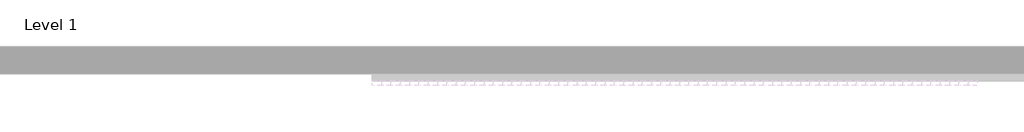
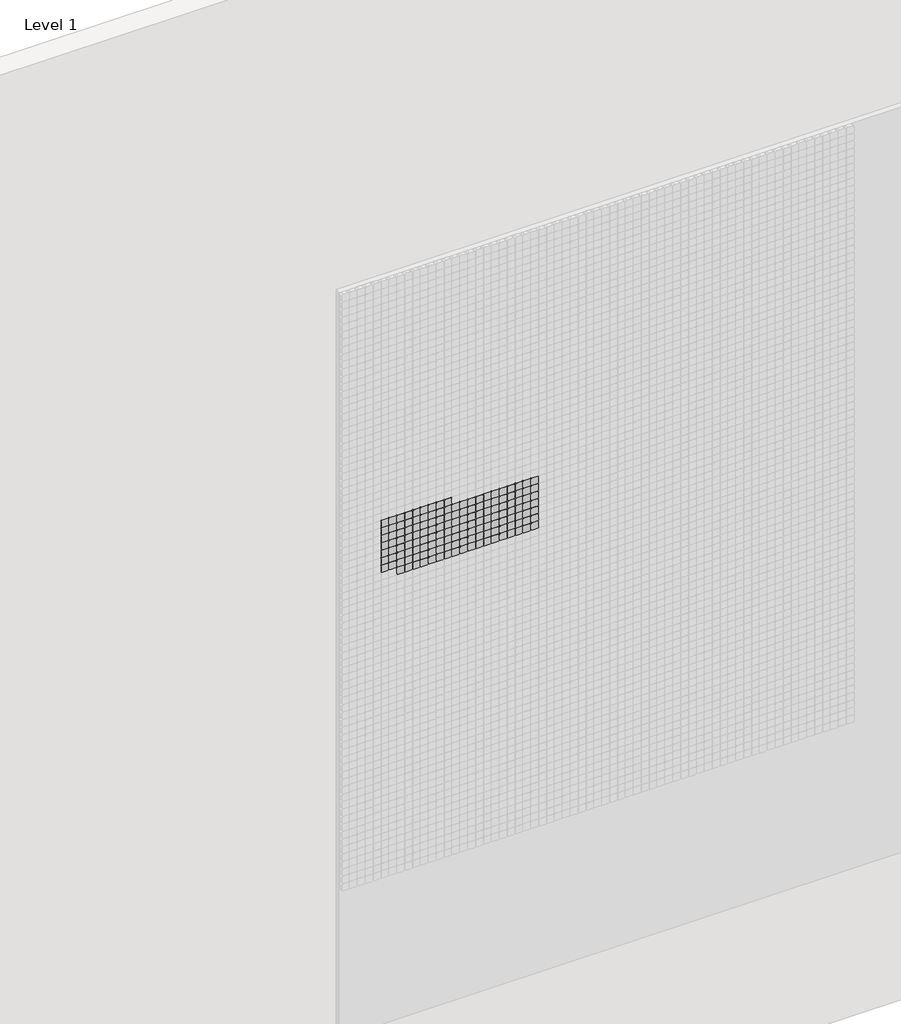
# One storey, part 12 of 71: 147 proxies.
"""IFC4 building model written with IfcOpenShell, lengths in millimetres."""

from ifc_helpers import new_model, si_unit, origin, place, context, project, spatial, transform, mapped, element, save
from components import generic_models_afde289c

model = new_model("IFC4")

# Units and contexts
model_context = context("Model", 3, world=origin())
ifc_project = project(units=[si_unit("LENGTHUNIT", "METRE", prefix="MILLI")], contexts=[model_context])

# Site, building, storey
site = spatial("IfcSite", under=ifc_project)
building = spatial("IfcBuilding", under=site)
storey = spatial("IfcBuildingStorey", under=building, Name="Level 1", Elevation=0.0)

# Proxies
placement = place(None, origin())
generic_models_shape = generic_models_afde289c(model_context)
element("IfcBuildingElementProxy", 1, Name="Pixel_M : Pixel_M", ObjectType="Pixel_M : Pixel_M", at=placement, inside=storey, context=model_context, shape_type="MappedRepresentation", body=[
    mapped(generic_models_shape, transform((5412.4280941, -75.0, 4366.3566215), x_axis=(1.0, 0.0, 0.0), y_axis=(0.0, 0.0, 1.0), z_axis=(0.0, -1.0, 0.0))),
])
element("IfcBuildingElementProxy", 2, Name="Pixel_M : Pixel_M", ObjectType="Pixel_M : Pixel_M", at=placement, inside=storey, context=model_context, shape_type="MappedRepresentation", body=[
    mapped(generic_models_shape, transform((5362.4280941, -75.0, 4366.3566215), x_axis=(1.0, 0.0, 0.0), y_axis=(0.0, 0.0, 1.0), z_axis=(0.0, -1.0, 0.0))),
])
element("IfcBuildingElementProxy", 3, Name="Pixel_M : Pixel_M", ObjectType="Pixel_M : Pixel_M", at=placement, inside=storey, context=model_context, shape_type="MappedRepresentation", body=[
    mapped(generic_models_shape, transform((5312.4280941, -75.0, 4366.3566215), x_axis=(1.0, 0.0, 0.0), y_axis=(0.0, 0.0, 1.0), z_axis=(0.0, -1.0, 0.0))),
])
element("IfcBuildingElementProxy", 4, Name="Pixel_M : Pixel_M", ObjectType="Pixel_M : Pixel_M", at=placement, inside=storey, context=model_context, shape_type="MappedRepresentation", body=[
    mapped(generic_models_shape, transform((5262.4280941, -75.0, 4366.3566215), x_axis=(1.0, 0.0, 0.0), y_axis=(0.0, 0.0, 1.0), z_axis=(0.0, -1.0, 0.0))),
])
element("IfcBuildingElementProxy", 5, Name="Pixel_M : Pixel_M", ObjectType="Pixel_M : Pixel_M", at=placement, inside=storey, context=model_context, shape_type="MappedRepresentation", body=[
    mapped(generic_models_shape, transform((5212.4280941, -75.0, 4366.3566215), x_axis=(1.0, 0.0, 0.0), y_axis=(0.0, 0.0, 1.0), z_axis=(0.0, -1.0, 0.0))),
])
element("IfcBuildingElementProxy", 6, Name="Pixel_M : Pixel_M", ObjectType="Pixel_M : Pixel_M", at=placement, inside=storey, context=model_context, shape_type="MappedRepresentation", body=[
    mapped(generic_models_shape, transform((5162.4280941, -75.0, 4366.3566215), x_axis=(1.0, 0.0, 0.0), y_axis=(0.0, 0.0, 1.0), z_axis=(0.0, -1.0, 0.0))),
])
element("IfcBuildingElementProxy", 7, Name="Pixel_M : Pixel_M", ObjectType="Pixel_M : Pixel_M", at=placement, inside=storey, context=model_context, shape_type="MappedRepresentation", body=[
    mapped(generic_models_shape, transform((5112.4280941, -75.0, 4366.3566215), x_axis=(1.0, 0.0, 0.0), y_axis=(0.0, 0.0, 1.0), z_axis=(0.0, -1.0, 0.0))),
])
element("IfcBuildingElementProxy", 8, Name="Pixel_M : Pixel_M", ObjectType="Pixel_M : Pixel_M", at=placement, inside=storey, context=model_context, shape_type="MappedRepresentation", body=[
    mapped(generic_models_shape, transform((5062.4280941, -75.0, 4366.3566215), x_axis=(1.0, 0.0, 0.0), y_axis=(0.0, 0.0, 1.0), z_axis=(0.0, -1.0, 0.0))),
])
element("IfcBuildingElementProxy", 9, Name="Pixel_M : Pixel_M", ObjectType="Pixel_M : Pixel_M", at=placement, inside=storey, context=model_context, shape_type="MappedRepresentation", body=[
    mapped(generic_models_shape, transform((5012.4280941, -75.0, 4366.3566215), x_axis=(1.0, 0.0, 0.0), y_axis=(0.0, 0.0, 1.0), z_axis=(0.0, -1.0, 0.0))),
])
element("IfcBuildingElementProxy", 10, Name="Pixel_M : Pixel_M", ObjectType="Pixel_M : Pixel_M", at=placement, inside=storey, context=model_context, shape_type="MappedRepresentation", body=[
    mapped(generic_models_shape, transform((5962.4280941, -75.0, 4316.3566215), x_axis=(1.0, 0.0, 0.0), y_axis=(0.0, 0.0, 1.0), z_axis=(0.0, -1.0, 0.0))),
])
element("IfcBuildingElementProxy", 11, Name="Pixel_M : Pixel_M", ObjectType="Pixel_M : Pixel_M", at=placement, inside=storey, context=model_context, shape_type="MappedRepresentation", body=[
    mapped(generic_models_shape, transform((5912.4280941, -75.0, 4316.3566215), x_axis=(1.0, 0.0, 0.0), y_axis=(0.0, 0.0, 1.0), z_axis=(0.0, -1.0, 0.0))),
])
element("IfcBuildingElementProxy", 12, Name="Pixel_M : Pixel_M", ObjectType="Pixel_M : Pixel_M", at=placement, inside=storey, context=model_context, shape_type="MappedRepresentation", body=[
    mapped(generic_models_shape, transform((5862.4280941, -75.0, 4316.3566215), x_axis=(1.0, 0.0, 0.0), y_axis=(0.0, 0.0, 1.0), z_axis=(0.0, -1.0, 0.0))),
])
element("IfcBuildingElementProxy", 13, Name="Pixel_M : Pixel_M", ObjectType="Pixel_M : Pixel_M", at=placement, inside=storey, context=model_context, shape_type="MappedRepresentation", body=[
    mapped(generic_models_shape, transform((5812.4280941, -75.0, 4316.3566215), x_axis=(1.0, 0.0, 0.0), y_axis=(0.0, 0.0, 1.0), z_axis=(0.0, -1.0, 0.0))),
])
element("IfcBuildingElementProxy", 14, Name="Pixel_M : Pixel_M", ObjectType="Pixel_M : Pixel_M", at=placement, inside=storey, context=model_context, shape_type="MappedRepresentation", body=[
    mapped(generic_models_shape, transform((5762.4280941, -75.0, 4316.3566215), x_axis=(1.0, 0.0, 0.0), y_axis=(0.0, 0.0, 1.0), z_axis=(0.0, -1.0, 0.0))),
])
element("IfcBuildingElementProxy", 15, Name="Pixel_M : Pixel_M", ObjectType="Pixel_M : Pixel_M", at=placement, inside=storey, context=model_context, shape_type="MappedRepresentation", body=[
    mapped(generic_models_shape, transform((5712.4280941, -75.0, 4316.3566215), x_axis=(1.0, 0.0, 0.0), y_axis=(0.0, 0.0, 1.0), z_axis=(0.0, -1.0, 0.0))),
])
element("IfcBuildingElementProxy", 16, Name="Pixel_M : Pixel_M", ObjectType="Pixel_M : Pixel_M", at=placement, inside=storey, context=model_context, shape_type="MappedRepresentation", body=[
    mapped(generic_models_shape, transform((5662.4280941, -75.0, 4316.3566215), x_axis=(1.0, 0.0, 0.0), y_axis=(0.0, 0.0, 1.0), z_axis=(0.0, -1.0, 0.0))),
])
element("IfcBuildingElementProxy", 17, Name="Pixel_M : Pixel_M", ObjectType="Pixel_M : Pixel_M", at=placement, inside=storey, context=model_context, shape_type="MappedRepresentation", body=[
    mapped(generic_models_shape, transform((5612.4280941, -75.0, 4316.3566215), x_axis=(1.0, 0.0, 0.0), y_axis=(0.0, 0.0, 1.0), z_axis=(0.0, -1.0, 0.0))),
])
element("IfcBuildingElementProxy", 18, Name="Pixel_M : Pixel_M", ObjectType="Pixel_M : Pixel_M", at=placement, inside=storey, context=model_context, shape_type="MappedRepresentation", body=[
    mapped(generic_models_shape, transform((5562.4280941, -75.0, 4316.3566215), x_axis=(1.0, 0.0, 0.0), y_axis=(0.0, 0.0, 1.0), z_axis=(0.0, -1.0, 0.0))),
])
element("IfcBuildingElementProxy", 19, Name="Pixel_M : Pixel_M", ObjectType="Pixel_M : Pixel_M", at=placement, inside=storey, context=model_context, shape_type="MappedRepresentation", body=[
    mapped(generic_models_shape, transform((5512.4280941, -75.0, 4316.3566215), x_axis=(1.0, 0.0, 0.0), y_axis=(0.0, 0.0, 1.0), z_axis=(0.0, -1.0, 0.0))),
])
element("IfcBuildingElementProxy", 20, Name="Pixel_M : Pixel_M", ObjectType="Pixel_M : Pixel_M", at=placement, inside=storey, context=model_context, shape_type="MappedRepresentation", body=[
    mapped(generic_models_shape, transform((5462.4280941, -75.0, 4316.3566215), x_axis=(1.0, 0.0, 0.0), y_axis=(0.0, 0.0, 1.0), z_axis=(0.0, -1.0, 0.0))),
])
element("IfcBuildingElementProxy", 21, Name="Pixel_M : Pixel_M", ObjectType="Pixel_M : Pixel_M", at=placement, inside=storey, context=model_context, shape_type="MappedRepresentation", body=[
    mapped(generic_models_shape, transform((5412.4280941, -75.0, 4316.3566215), x_axis=(1.0, 0.0, 0.0), y_axis=(0.0, 0.0, 1.0), z_axis=(0.0, -1.0, 0.0))),
])
element("IfcBuildingElementProxy", 22, Name="Pixel_M : Pixel_M", ObjectType="Pixel_M : Pixel_M", at=placement, inside=storey, context=model_context, shape_type="MappedRepresentation", body=[
    mapped(generic_models_shape, transform((5362.4280941, -75.0, 4316.3566215), x_axis=(1.0, 0.0, 0.0), y_axis=(0.0, 0.0, 1.0), z_axis=(0.0, -1.0, 0.0))),
])
element("IfcBuildingElementProxy", 23, Name="Pixel_M : Pixel_M", ObjectType="Pixel_M : Pixel_M", at=placement, inside=storey, context=model_context, shape_type="MappedRepresentation", body=[
    mapped(generic_models_shape, transform((5312.4280941, -75.0, 4316.3566215), x_axis=(1.0, 0.0, 0.0), y_axis=(0.0, 0.0, 1.0), z_axis=(0.0, -1.0, 0.0))),
])
element("IfcBuildingElementProxy", 24, Name="Pixel_M : Pixel_M", ObjectType="Pixel_M : Pixel_M", at=placement, inside=storey, context=model_context, shape_type="MappedRepresentation", body=[
    mapped(generic_models_shape, transform((5262.4280941, -75.0, 4316.3566215), x_axis=(1.0, 0.0, 0.0), y_axis=(0.0, 0.0, 1.0), z_axis=(0.0, -1.0, 0.0))),
])
element("IfcBuildingElementProxy", 25, Name="Pixel_M : Pixel_M", ObjectType="Pixel_M : Pixel_M", at=placement, inside=storey, context=model_context, shape_type="MappedRepresentation", body=[
    mapped(generic_models_shape, transform((5212.4280941, -75.0, 4316.3566215), x_axis=(1.0, 0.0, 0.0), y_axis=(0.0, 0.0, 1.0), z_axis=(0.0, -1.0, 0.0))),
])
element("IfcBuildingElementProxy", 26, Name="Pixel_M : Pixel_M", ObjectType="Pixel_M : Pixel_M", at=placement, inside=storey, context=model_context, shape_type="MappedRepresentation", body=[
    mapped(generic_models_shape, transform((5162.4280941, -75.0, 4316.3566215), x_axis=(1.0, 0.0, 0.0), y_axis=(0.0, 0.0, 1.0), z_axis=(0.0, -1.0, 0.0))),
])
element("IfcBuildingElementProxy", 27, Name="Pixel_M : Pixel_M", ObjectType="Pixel_M : Pixel_M", at=placement, inside=storey, context=model_context, shape_type="MappedRepresentation", body=[
    mapped(generic_models_shape, transform((5112.4280941, -75.0, 4316.3566215), x_axis=(1.0, 0.0, 0.0), y_axis=(0.0, 0.0, 1.0), z_axis=(0.0, -1.0, 0.0))),
])
element("IfcBuildingElementProxy", 28, Name="Pixel_M : Pixel_M", ObjectType="Pixel_M : Pixel_M", at=placement, inside=storey, context=model_context, shape_type="MappedRepresentation", body=[
    mapped(generic_models_shape, transform((5062.4280941, -75.0, 4316.3566215), x_axis=(1.0, 0.0, 0.0), y_axis=(0.0, 0.0, 1.0), z_axis=(0.0, -1.0, 0.0))),
])
element("IfcBuildingElementProxy", 29, Name="Pixel_M : Pixel_M", ObjectType="Pixel_M : Pixel_M", at=placement, inside=storey, context=model_context, shape_type="MappedRepresentation", body=[
    mapped(generic_models_shape, transform((5012.4280941, -75.0, 4316.3566215), x_axis=(1.0, 0.0, 0.0), y_axis=(0.0, 0.0, 1.0), z_axis=(0.0, -1.0, 0.0))),
])
element("IfcBuildingElementProxy", 30, Name="Pixel_M : Pixel_M", ObjectType="Pixel_M : Pixel_M", at=placement, inside=storey, context=model_context, shape_type="MappedRepresentation", body=[
    mapped(generic_models_shape, transform((5962.4280941, -75.0, 4266.3566215), x_axis=(1.0, 0.0, 0.0), y_axis=(0.0, 0.0, 1.0), z_axis=(0.0, -1.0, 0.0))),
])
element("IfcBuildingElementProxy", 31, Name="Pixel_M : Pixel_M", ObjectType="Pixel_M : Pixel_M", at=placement, inside=storey, context=model_context, shape_type="MappedRepresentation", body=[
    mapped(generic_models_shape, transform((5912.4280941, -75.0, 4266.3566215), x_axis=(1.0, 0.0, 0.0), y_axis=(0.0, 0.0, 1.0), z_axis=(0.0, -1.0, 0.0))),
])
element("IfcBuildingElementProxy", 32, Name="Pixel_M : Pixel_M", ObjectType="Pixel_M : Pixel_M", at=placement, inside=storey, context=model_context, shape_type="MappedRepresentation", body=[
    mapped(generic_models_shape, transform((5862.4280941, -75.0, 4266.3566215), x_axis=(1.0, 0.0, 0.0), y_axis=(0.0, 0.0, 1.0), z_axis=(0.0, -1.0, 0.0))),
])
element("IfcBuildingElementProxy", 33, Name="Pixel_M : Pixel_M", ObjectType="Pixel_M : Pixel_M", at=placement, inside=storey, context=model_context, shape_type="MappedRepresentation", body=[
    mapped(generic_models_shape, transform((5812.4280941, -75.0, 4266.3566215), x_axis=(1.0, 0.0, 0.0), y_axis=(0.0, 0.0, 1.0), z_axis=(0.0, -1.0, 0.0))),
])
element("IfcBuildingElementProxy", 34, Name="Pixel_M : Pixel_M", ObjectType="Pixel_M : Pixel_M", at=placement, inside=storey, context=model_context, shape_type="MappedRepresentation", body=[
    mapped(generic_models_shape, transform((5762.4280941, -75.0, 4266.3566215), x_axis=(1.0, 0.0, 0.0), y_axis=(0.0, 0.0, 1.0), z_axis=(0.0, -1.0, 0.0))),
])
element("IfcBuildingElementProxy", 35, Name="Pixel_M : Pixel_M", ObjectType="Pixel_M : Pixel_M", at=placement, inside=storey, context=model_context, shape_type="MappedRepresentation", body=[
    mapped(generic_models_shape, transform((5712.4280941, -75.0, 4266.3566215), x_axis=(1.0, 0.0, 0.0), y_axis=(0.0, 0.0, 1.0), z_axis=(0.0, -1.0, 0.0))),
])
element("IfcBuildingElementProxy", 36, Name="Pixel_M : Pixel_M", ObjectType="Pixel_M : Pixel_M", at=placement, inside=storey, context=model_context, shape_type="MappedRepresentation", body=[
    mapped(generic_models_shape, transform((5662.4280941, -75.0, 4266.3566215), x_axis=(1.0, 0.0, 0.0), y_axis=(0.0, 0.0, 1.0), z_axis=(0.0, -1.0, 0.0))),
])
element("IfcBuildingElementProxy", 37, Name="Pixel_M : Pixel_M", ObjectType="Pixel_M : Pixel_M", at=placement, inside=storey, context=model_context, shape_type="MappedRepresentation", body=[
    mapped(generic_models_shape, transform((5612.4280941, -75.0, 4266.3566215), x_axis=(1.0, 0.0, 0.0), y_axis=(0.0, 0.0, 1.0), z_axis=(0.0, -1.0, 0.0))),
])
element("IfcBuildingElementProxy", 38, Name="Pixel_M : Pixel_M", ObjectType="Pixel_M : Pixel_M", at=placement, inside=storey, context=model_context, shape_type="MappedRepresentation", body=[
    mapped(generic_models_shape, transform((5562.4280941, -75.0, 4266.3566215), x_axis=(1.0, 0.0, 0.0), y_axis=(0.0, 0.0, 1.0), z_axis=(0.0, -1.0, 0.0))),
])
element("IfcBuildingElementProxy", 39, Name="Pixel_M : Pixel_M", ObjectType="Pixel_M : Pixel_M", at=placement, inside=storey, context=model_context, shape_type="MappedRepresentation", body=[
    mapped(generic_models_shape, transform((5512.4280941, -75.0, 4266.3566215), x_axis=(1.0, 0.0, 0.0), y_axis=(0.0, 0.0, 1.0), z_axis=(0.0, -1.0, 0.0))),
])
element("IfcBuildingElementProxy", 40, Name="Pixel_M : Pixel_M", ObjectType="Pixel_M : Pixel_M", at=placement, inside=storey, context=model_context, shape_type="MappedRepresentation", body=[
    mapped(generic_models_shape, transform((5462.4280941, -75.0, 4266.3566215), x_axis=(1.0, 0.0, 0.0), y_axis=(0.0, 0.0, 1.0), z_axis=(0.0, -1.0, 0.0))),
])
element("IfcBuildingElementProxy", 41, Name="Pixel_M : Pixel_M", ObjectType="Pixel_M : Pixel_M", at=placement, inside=storey, context=model_context, shape_type="MappedRepresentation", body=[
    mapped(generic_models_shape, transform((5412.4280941, -75.0, 4266.3566215), x_axis=(1.0, 0.0, 0.0), y_axis=(0.0, 0.0, 1.0), z_axis=(0.0, -1.0, 0.0))),
])
element("IfcBuildingElementProxy", 42, Name="Pixel_M : Pixel_M", ObjectType="Pixel_M : Pixel_M", at=placement, inside=storey, context=model_context, shape_type="MappedRepresentation", body=[
    mapped(generic_models_shape, transform((5362.4280941, -75.0, 4266.3566215), x_axis=(1.0, 0.0, 0.0), y_axis=(0.0, 0.0, 1.0), z_axis=(0.0, -1.0, 0.0))),
])
element("IfcBuildingElementProxy", 43, Name="Pixel_M : Pixel_M", ObjectType="Pixel_M : Pixel_M", at=placement, inside=storey, context=model_context, shape_type="MappedRepresentation", body=[
    mapped(generic_models_shape, transform((5312.4280941, -75.0, 4266.3566215), x_axis=(1.0, 0.0, 0.0), y_axis=(0.0, 0.0, 1.0), z_axis=(0.0, -1.0, 0.0))),
])
element("IfcBuildingElementProxy", 44, Name="Pixel_M : Pixel_M", ObjectType="Pixel_M : Pixel_M", at=placement, inside=storey, context=model_context, shape_type="MappedRepresentation", body=[
    mapped(generic_models_shape, transform((5262.4280941, -75.0, 4266.3566215), x_axis=(1.0, 0.0, 0.0), y_axis=(0.0, 0.0, 1.0), z_axis=(0.0, -1.0, 0.0))),
])
element("IfcBuildingElementProxy", 45, Name="Pixel_M : Pixel_M", ObjectType="Pixel_M : Pixel_M", at=placement, inside=storey, context=model_context, shape_type="MappedRepresentation", body=[
    mapped(generic_models_shape, transform((5212.4280941, -75.0, 4266.3566215), x_axis=(1.0, 0.0, 0.0), y_axis=(0.0, 0.0, 1.0), z_axis=(0.0, -1.0, 0.0))),
])
element("IfcBuildingElementProxy", 46, Name="Pixel_M : Pixel_M", ObjectType="Pixel_M : Pixel_M", at=placement, inside=storey, context=model_context, shape_type="MappedRepresentation", body=[
    mapped(generic_models_shape, transform((5162.4280941, -75.0, 4266.3566215), x_axis=(1.0, 0.0, 0.0), y_axis=(0.0, 0.0, 1.0), z_axis=(0.0, -1.0, 0.0))),
])
element("IfcBuildingElementProxy", 47, Name="Pixel_M : Pixel_M", ObjectType="Pixel_M : Pixel_M", at=placement, inside=storey, context=model_context, shape_type="MappedRepresentation", body=[
    mapped(generic_models_shape, transform((5112.4280941, -75.0, 4266.3566215), x_axis=(1.0, 0.0, 0.0), y_axis=(0.0, 0.0, 1.0), z_axis=(0.0, -1.0, 0.0))),
])
element("IfcBuildingElementProxy", 48, Name="Pixel_M : Pixel_M", ObjectType="Pixel_M : Pixel_M", at=placement, inside=storey, context=model_context, shape_type="MappedRepresentation", body=[
    mapped(generic_models_shape, transform((5062.4280941, -75.0, 4266.3566215), x_axis=(1.0, 0.0, 0.0), y_axis=(0.0, 0.0, 1.0), z_axis=(0.0, -1.0, 0.0))),
])
element("IfcBuildingElementProxy", 49, Name="Pixel_M : Pixel_M", ObjectType="Pixel_M : Pixel_M", at=placement, inside=storey, context=model_context, shape_type="MappedRepresentation", body=[
    mapped(generic_models_shape, transform((5012.4280941, -75.0, 4266.3566215), x_axis=(1.0, 0.0, 0.0), y_axis=(0.0, 0.0, 1.0), z_axis=(0.0, -1.0, 0.0))),
])
element("IfcBuildingElementProxy", 50, Name="Pixel_M : Pixel_M", ObjectType="Pixel_M : Pixel_M", at=placement, inside=storey, context=model_context, shape_type="MappedRepresentation", body=[
    mapped(generic_models_shape, transform((5962.4280941, -75.0, 4216.3566215), x_axis=(1.0, 0.0, 0.0), y_axis=(0.0, 0.0, 1.0), z_axis=(0.0, -1.0, 0.0))),
])
element("IfcBuildingElementProxy", 51, Name="Pixel_M : Pixel_M", ObjectType="Pixel_M : Pixel_M", at=placement, inside=storey, context=model_context, shape_type="MappedRepresentation", body=[
    mapped(generic_models_shape, transform((5912.4280941, -75.0, 4216.3566215), x_axis=(1.0, 0.0, 0.0), y_axis=(0.0, 0.0, 1.0), z_axis=(0.0, -1.0, 0.0))),
])
element("IfcBuildingElementProxy", 52, Name="Pixel_M : Pixel_M", ObjectType="Pixel_M : Pixel_M", at=placement, inside=storey, context=model_context, shape_type="MappedRepresentation", body=[
    mapped(generic_models_shape, transform((5862.4280941, -75.0, 4216.3566215), x_axis=(1.0, 0.0, 0.0), y_axis=(0.0, 0.0, 1.0), z_axis=(0.0, -1.0, 0.0))),
])
element("IfcBuildingElementProxy", 53, Name="Pixel_M : Pixel_M", ObjectType="Pixel_M : Pixel_M", at=placement, inside=storey, context=model_context, shape_type="MappedRepresentation", body=[
    mapped(generic_models_shape, transform((5812.4280941, -75.0, 4216.3566215), x_axis=(1.0, 0.0, 0.0), y_axis=(0.0, 0.0, 1.0), z_axis=(0.0, -1.0, 0.0))),
])
element("IfcBuildingElementProxy", 54, Name="Pixel_M : Pixel_M", ObjectType="Pixel_M : Pixel_M", at=placement, inside=storey, context=model_context, shape_type="MappedRepresentation", body=[
    mapped(generic_models_shape, transform((5762.4280941, -75.0, 4216.3566215), x_axis=(1.0, 0.0, 0.0), y_axis=(0.0, 0.0, 1.0), z_axis=(0.0, -1.0, 0.0))),
])
element("IfcBuildingElementProxy", 55, Name="Pixel_M : Pixel_M", ObjectType="Pixel_M : Pixel_M", at=placement, inside=storey, context=model_context, shape_type="MappedRepresentation", body=[
    mapped(generic_models_shape, transform((5712.4280941, -75.0, 4216.3566215), x_axis=(1.0, 0.0, 0.0), y_axis=(0.0, 0.0, 1.0), z_axis=(0.0, -1.0, 0.0))),
])
element("IfcBuildingElementProxy", 56, Name="Pixel_M : Pixel_M", ObjectType="Pixel_M : Pixel_M", at=placement, inside=storey, context=model_context, shape_type="MappedRepresentation", body=[
    mapped(generic_models_shape, transform((5662.4280941, -75.0, 4216.3566215), x_axis=(1.0, 0.0, 0.0), y_axis=(0.0, 0.0, 1.0), z_axis=(0.0, -1.0, 0.0))),
])
element("IfcBuildingElementProxy", 57, Name="Pixel_M : Pixel_M", ObjectType="Pixel_M : Pixel_M", at=placement, inside=storey, context=model_context, shape_type="MappedRepresentation", body=[
    mapped(generic_models_shape, transform((5612.4280941, -75.0, 4216.3566215), x_axis=(1.0, 0.0, 0.0), y_axis=(0.0, 0.0, 1.0), z_axis=(0.0, -1.0, 0.0))),
])
element("IfcBuildingElementProxy", 58, Name="Pixel_M : Pixel_M", ObjectType="Pixel_M : Pixel_M", at=placement, inside=storey, context=model_context, shape_type="MappedRepresentation", body=[
    mapped(generic_models_shape, transform((5562.4280941, -75.0, 4216.3566215), x_axis=(1.0, 0.0, 0.0), y_axis=(0.0, 0.0, 1.0), z_axis=(0.0, -1.0, 0.0))),
])
element("IfcBuildingElementProxy", 59, Name="Pixel_M : Pixel_M", ObjectType="Pixel_M : Pixel_M", at=placement, inside=storey, context=model_context, shape_type="MappedRepresentation", body=[
    mapped(generic_models_shape, transform((5512.4280941, -75.0, 4216.3566215), x_axis=(1.0, 0.0, 0.0), y_axis=(0.0, 0.0, 1.0), z_axis=(0.0, -1.0, 0.0))),
])
element("IfcBuildingElementProxy", 60, Name="Pixel_M : Pixel_M", ObjectType="Pixel_M : Pixel_M", at=placement, inside=storey, context=model_context, shape_type="MappedRepresentation", body=[
    mapped(generic_models_shape, transform((5462.4280941, -75.0, 4216.3566215), x_axis=(1.0, 0.0, 0.0), y_axis=(0.0, 0.0, 1.0), z_axis=(0.0, -1.0, 0.0))),
])
element("IfcBuildingElementProxy", 61, Name="Pixel_M : Pixel_M", ObjectType="Pixel_M : Pixel_M", at=placement, inside=storey, context=model_context, shape_type="MappedRepresentation", body=[
    mapped(generic_models_shape, transform((5412.4280941, -75.0, 4216.3566215), x_axis=(1.0, 0.0, 0.0), y_axis=(0.0, 0.0, 1.0), z_axis=(0.0, -1.0, 0.0))),
])
element("IfcBuildingElementProxy", 62, Name="Pixel_M : Pixel_M", ObjectType="Pixel_M : Pixel_M", at=placement, inside=storey, context=model_context, shape_type="MappedRepresentation", body=[
    mapped(generic_models_shape, transform((5362.4280941, -75.0, 4216.3566215), x_axis=(1.0, 0.0, 0.0), y_axis=(0.0, 0.0, 1.0), z_axis=(0.0, -1.0, 0.0))),
])
element("IfcBuildingElementProxy", 63, Name="Pixel_M : Pixel_M", ObjectType="Pixel_M : Pixel_M", at=placement, inside=storey, context=model_context, shape_type="MappedRepresentation", body=[
    mapped(generic_models_shape, transform((5312.4280941, -75.0, 4216.3566215), x_axis=(1.0, 0.0, 0.0), y_axis=(0.0, 0.0, 1.0), z_axis=(0.0, -1.0, 0.0))),
])
element("IfcBuildingElementProxy", 64, Name="Pixel_M : Pixel_M", ObjectType="Pixel_M : Pixel_M", at=placement, inside=storey, context=model_context, shape_type="MappedRepresentation", body=[
    mapped(generic_models_shape, transform((5262.4280941, -75.0, 4216.3566215), x_axis=(1.0, 0.0, 0.0), y_axis=(0.0, 0.0, 1.0), z_axis=(0.0, -1.0, 0.0))),
])
element("IfcBuildingElementProxy", 65, Name="Pixel_M : Pixel_M", ObjectType="Pixel_M : Pixel_M", at=placement, inside=storey, context=model_context, shape_type="MappedRepresentation", body=[
    mapped(generic_models_shape, transform((5212.4280941, -75.0, 4216.3566215), x_axis=(1.0, 0.0, 0.0), y_axis=(0.0, 0.0, 1.0), z_axis=(0.0, -1.0, 0.0))),
])
element("IfcBuildingElementProxy", 66, Name="Pixel_M : Pixel_M", ObjectType="Pixel_M : Pixel_M", at=placement, inside=storey, context=model_context, shape_type="MappedRepresentation", body=[
    mapped(generic_models_shape, transform((5162.4280941, -75.0, 4216.3566215), x_axis=(1.0, 0.0, 0.0), y_axis=(0.0, 0.0, 1.0), z_axis=(0.0, -1.0, 0.0))),
])
element("IfcBuildingElementProxy", 67, Name="Pixel_M : Pixel_M", ObjectType="Pixel_M : Pixel_M", at=placement, inside=storey, context=model_context, shape_type="MappedRepresentation", body=[
    mapped(generic_models_shape, transform((5112.4280941, -75.0, 4216.3566215), x_axis=(1.0, 0.0, 0.0), y_axis=(0.0, 0.0, 1.0), z_axis=(0.0, -1.0, 0.0))),
])
element("IfcBuildingElementProxy", 68, Name="Pixel_M : Pixel_M", ObjectType="Pixel_M : Pixel_M", at=placement, inside=storey, context=model_context, shape_type="MappedRepresentation", body=[
    mapped(generic_models_shape, transform((5062.4280941, -75.0, 4216.3566215), x_axis=(1.0, 0.0, 0.0), y_axis=(0.0, 0.0, 1.0), z_axis=(0.0, -1.0, 0.0))),
])
element("IfcBuildingElementProxy", 69, Name="Pixel_M : Pixel_M", ObjectType="Pixel_M : Pixel_M", at=placement, inside=storey, context=model_context, shape_type="MappedRepresentation", body=[
    mapped(generic_models_shape, transform((5012.4280941, -75.0, 4216.3566215), x_axis=(1.0, 0.0, 0.0), y_axis=(0.0, 0.0, 1.0), z_axis=(0.0, -1.0, 0.0))),
])
element("IfcBuildingElementProxy", 70, Name="Pixel_M : Pixel_M", ObjectType="Pixel_M : Pixel_M", at=placement, inside=storey, context=model_context, shape_type="MappedRepresentation", body=[
    mapped(generic_models_shape, transform((5962.4280941, -75.0, 4166.3566215), x_axis=(1.0, 0.0, 0.0), y_axis=(0.0, 0.0, 1.0), z_axis=(0.0, -1.0, 0.0))),
])
element("IfcBuildingElementProxy", 71, Name="Pixel_M : Pixel_M", ObjectType="Pixel_M : Pixel_M", at=placement, inside=storey, context=model_context, shape_type="MappedRepresentation", body=[
    mapped(generic_models_shape, transform((5912.4280941, -75.0, 4166.3566215), x_axis=(1.0, 0.0, 0.0), y_axis=(0.0, 0.0, 1.0), z_axis=(0.0, -1.0, 0.0))),
])
element("IfcBuildingElementProxy", 72, Name="Pixel_M : Pixel_M", ObjectType="Pixel_M : Pixel_M", at=placement, inside=storey, context=model_context, shape_type="MappedRepresentation", body=[
    mapped(generic_models_shape, transform((5862.4280941, -75.0, 4166.3566215), x_axis=(1.0, 0.0, 0.0), y_axis=(0.0, 0.0, 1.0), z_axis=(0.0, -1.0, 0.0))),
])
element("IfcBuildingElementProxy", 73, Name="Pixel_M : Pixel_M", ObjectType="Pixel_M : Pixel_M", at=placement, inside=storey, context=model_context, shape_type="MappedRepresentation", body=[
    mapped(generic_models_shape, transform((5812.4280941, -75.0, 4166.3566215), x_axis=(1.0, 0.0, 0.0), y_axis=(0.0, 0.0, 1.0), z_axis=(0.0, -1.0, 0.0))),
])
element("IfcBuildingElementProxy", 74, Name="Pixel_M : Pixel_M", ObjectType="Pixel_M : Pixel_M", at=placement, inside=storey, context=model_context, shape_type="MappedRepresentation", body=[
    mapped(generic_models_shape, transform((5762.4280941, -75.0, 4166.3566215), x_axis=(1.0, 0.0, 0.0), y_axis=(0.0, 0.0, 1.0), z_axis=(0.0, -1.0, 0.0))),
])
element("IfcBuildingElementProxy", 75, Name="Pixel_M : Pixel_M", ObjectType="Pixel_M : Pixel_M", at=placement, inside=storey, context=model_context, shape_type="MappedRepresentation", body=[
    mapped(generic_models_shape, transform((5712.4280941, -75.0, 4166.3566215), x_axis=(1.0, 0.0, 0.0), y_axis=(0.0, 0.0, 1.0), z_axis=(0.0, -1.0, 0.0))),
])
element("IfcBuildingElementProxy", 76, Name="Pixel_M : Pixel_M", ObjectType="Pixel_M : Pixel_M", at=placement, inside=storey, context=model_context, shape_type="MappedRepresentation", body=[
    mapped(generic_models_shape, transform((5662.4280941, -75.0, 4166.3566215), x_axis=(1.0, 0.0, 0.0), y_axis=(0.0, 0.0, 1.0), z_axis=(0.0, -1.0, 0.0))),
])
element("IfcBuildingElementProxy", 77, Name="Pixel_M : Pixel_M", ObjectType="Pixel_M : Pixel_M", at=placement, inside=storey, context=model_context, shape_type="MappedRepresentation", body=[
    mapped(generic_models_shape, transform((5612.4280941, -75.0, 4166.3566215), x_axis=(1.0, 0.0, 0.0), y_axis=(0.0, 0.0, 1.0), z_axis=(0.0, -1.0, 0.0))),
])
element("IfcBuildingElementProxy", 78, Name="Pixel_M : Pixel_M", ObjectType="Pixel_M : Pixel_M", at=placement, inside=storey, context=model_context, shape_type="MappedRepresentation", body=[
    mapped(generic_models_shape, transform((5562.4280941, -75.0, 4166.3566215), x_axis=(1.0, 0.0, 0.0), y_axis=(0.0, 0.0, 1.0), z_axis=(0.0, -1.0, 0.0))),
])
element("IfcBuildingElementProxy", 79, Name="Pixel_M : Pixel_M", ObjectType="Pixel_M : Pixel_M", at=placement, inside=storey, context=model_context, shape_type="MappedRepresentation", body=[
    mapped(generic_models_shape, transform((5512.4280941, -75.0, 4166.3566215), x_axis=(1.0, 0.0, 0.0), y_axis=(0.0, 0.0, 1.0), z_axis=(0.0, -1.0, 0.0))),
])
element("IfcBuildingElementProxy", 80, Name="Pixel_M : Pixel_M", ObjectType="Pixel_M : Pixel_M", at=placement, inside=storey, context=model_context, shape_type="MappedRepresentation", body=[
    mapped(generic_models_shape, transform((5462.4280941, -75.0, 4166.3566215), x_axis=(1.0, 0.0, 0.0), y_axis=(0.0, 0.0, 1.0), z_axis=(0.0, -1.0, 0.0))),
])
element("IfcBuildingElementProxy", 81, Name="Pixel_M : Pixel_M", ObjectType="Pixel_M : Pixel_M", at=placement, inside=storey, context=model_context, shape_type="MappedRepresentation", body=[
    mapped(generic_models_shape, transform((5412.4280941, -75.0, 4166.3566215), x_axis=(1.0, 0.0, 0.0), y_axis=(0.0, 0.0, 1.0), z_axis=(0.0, -1.0, 0.0))),
])
element("IfcBuildingElementProxy", 82, Name="Pixel_M : Pixel_M", ObjectType="Pixel_M : Pixel_M", at=placement, inside=storey, context=model_context, shape_type="MappedRepresentation", body=[
    mapped(generic_models_shape, transform((5362.4280941, -75.0, 4166.3566215), x_axis=(1.0, 0.0, 0.0), y_axis=(0.0, 0.0, 1.0), z_axis=(0.0, -1.0, 0.0))),
])
element("IfcBuildingElementProxy", 83, Name="Pixel_M : Pixel_M", ObjectType="Pixel_M : Pixel_M", at=placement, inside=storey, context=model_context, shape_type="MappedRepresentation", body=[
    mapped(generic_models_shape, transform((5312.4280941, -75.0, 4166.3566215), x_axis=(1.0, 0.0, 0.0), y_axis=(0.0, 0.0, 1.0), z_axis=(0.0, -1.0, 0.0))),
])
element("IfcBuildingElementProxy", 84, Name="Pixel_M : Pixel_M", ObjectType="Pixel_M : Pixel_M", at=placement, inside=storey, context=model_context, shape_type="MappedRepresentation", body=[
    mapped(generic_models_shape, transform((5262.4280941, -75.0, 4166.3566215), x_axis=(1.0, 0.0, 0.0), y_axis=(0.0, 0.0, 1.0), z_axis=(0.0, -1.0, 0.0))),
])
element("IfcBuildingElementProxy", 85, Name="Pixel_M : Pixel_M", ObjectType="Pixel_M : Pixel_M", at=placement, inside=storey, context=model_context, shape_type="MappedRepresentation", body=[
    mapped(generic_models_shape, transform((5212.4280941, -75.0, 4166.3566215), x_axis=(1.0, 0.0, 0.0), y_axis=(0.0, 0.0, 1.0), z_axis=(0.0, -1.0, 0.0))),
])
element("IfcBuildingElementProxy", 86, Name="Pixel_M : Pixel_M", ObjectType="Pixel_M : Pixel_M", at=placement, inside=storey, context=model_context, shape_type="MappedRepresentation", body=[
    mapped(generic_models_shape, transform((5162.4280941, -75.0, 4166.3566215), x_axis=(1.0, 0.0, 0.0), y_axis=(0.0, 0.0, 1.0), z_axis=(0.0, -1.0, 0.0))),
])
element("IfcBuildingElementProxy", 87, Name="Pixel_M : Pixel_M", ObjectType="Pixel_M : Pixel_M", at=placement, inside=storey, context=model_context, shape_type="MappedRepresentation", body=[
    mapped(generic_models_shape, transform((5112.4280941, -75.0, 4166.3566215), x_axis=(1.0, 0.0, 0.0), y_axis=(0.0, 0.0, 1.0), z_axis=(0.0, -1.0, 0.0))),
])
element("IfcBuildingElementProxy", 88, Name="Pixel_M : Pixel_M", ObjectType="Pixel_M : Pixel_M", at=placement, inside=storey, context=model_context, shape_type="MappedRepresentation", body=[
    mapped(generic_models_shape, transform((5062.4280941, -75.0, 4166.3566215), x_axis=(1.0, 0.0, 0.0), y_axis=(0.0, 0.0, 1.0), z_axis=(0.0, -1.0, 0.0))),
])
element("IfcBuildingElementProxy", 89, Name="Pixel_M : Pixel_M", ObjectType="Pixel_M : Pixel_M", at=placement, inside=storey, context=model_context, shape_type="MappedRepresentation", body=[
    mapped(generic_models_shape, transform((5012.4280941, -75.0, 4166.3566215), x_axis=(1.0, 0.0, 0.0), y_axis=(0.0, 0.0, 1.0), z_axis=(0.0, -1.0, 0.0))),
])
element("IfcBuildingElementProxy", 90, Name="Pixel_M : Pixel_M", ObjectType="Pixel_M : Pixel_M", at=placement, inside=storey, context=model_context, shape_type="MappedRepresentation", body=[
    mapped(generic_models_shape, transform((5962.4280941, -75.0, 4116.3566215), x_axis=(1.0, 0.0, 0.0), y_axis=(0.0, 0.0, 1.0), z_axis=(0.0, -1.0, 0.0))),
])
element("IfcBuildingElementProxy", 91, Name="Pixel_M : Pixel_M", ObjectType="Pixel_M : Pixel_M", at=placement, inside=storey, context=model_context, shape_type="MappedRepresentation", body=[
    mapped(generic_models_shape, transform((5912.4280941, -75.0, 4116.3566215), x_axis=(1.0, 0.0, 0.0), y_axis=(0.0, 0.0, 1.0), z_axis=(0.0, -1.0, 0.0))),
])
element("IfcBuildingElementProxy", 92, Name="Pixel_M : Pixel_M", ObjectType="Pixel_M : Pixel_M", at=placement, inside=storey, context=model_context, shape_type="MappedRepresentation", body=[
    mapped(generic_models_shape, transform((5862.4280941, -75.0, 4116.3566215), x_axis=(1.0, 0.0, 0.0), y_axis=(0.0, 0.0, 1.0), z_axis=(0.0, -1.0, 0.0))),
])
element("IfcBuildingElementProxy", 93, Name="Pixel_M : Pixel_M", ObjectType="Pixel_M : Pixel_M", at=placement, inside=storey, context=model_context, shape_type="MappedRepresentation", body=[
    mapped(generic_models_shape, transform((5812.4280941, -75.0, 4116.3566215), x_axis=(1.0, 0.0, 0.0), y_axis=(0.0, 0.0, 1.0), z_axis=(0.0, -1.0, 0.0))),
])
element("IfcBuildingElementProxy", 94, Name="Pixel_M : Pixel_M", ObjectType="Pixel_M : Pixel_M", at=placement, inside=storey, context=model_context, shape_type="MappedRepresentation", body=[
    mapped(generic_models_shape, transform((5762.4280941, -75.0, 4116.3566215), x_axis=(1.0, 0.0, 0.0), y_axis=(0.0, 0.0, 1.0), z_axis=(0.0, -1.0, 0.0))),
])
element("IfcBuildingElementProxy", 95, Name="Pixel_M : Pixel_M", ObjectType="Pixel_M : Pixel_M", at=placement, inside=storey, context=model_context, shape_type="MappedRepresentation", body=[
    mapped(generic_models_shape, transform((5712.4280941, -75.0, 4116.3566215), x_axis=(1.0, 0.0, 0.0), y_axis=(0.0, 0.0, 1.0), z_axis=(0.0, -1.0, 0.0))),
])
element("IfcBuildingElementProxy", 96, Name="Pixel_M : Pixel_M", ObjectType="Pixel_M : Pixel_M", at=placement, inside=storey, context=model_context, shape_type="MappedRepresentation", body=[
    mapped(generic_models_shape, transform((5662.4280941, -75.0, 4116.3566215), x_axis=(1.0, 0.0, 0.0), y_axis=(0.0, 0.0, 1.0), z_axis=(0.0, -1.0, 0.0))),
])
element("IfcBuildingElementProxy", 97, Name="Pixel_M : Pixel_M", ObjectType="Pixel_M : Pixel_M", at=placement, inside=storey, context=model_context, shape_type="MappedRepresentation", body=[
    mapped(generic_models_shape, transform((5612.4280941, -75.0, 4116.3566215), x_axis=(1.0, 0.0, 0.0), y_axis=(0.0, 0.0, 1.0), z_axis=(0.0, -1.0, 0.0))),
])
element("IfcBuildingElementProxy", 98, Name="Pixel_M : Pixel_M", ObjectType="Pixel_M : Pixel_M", at=placement, inside=storey, context=model_context, shape_type="MappedRepresentation", body=[
    mapped(generic_models_shape, transform((5562.4280941, -75.0, 4116.3566215), x_axis=(1.0, 0.0, 0.0), y_axis=(0.0, 0.0, 1.0), z_axis=(0.0, -1.0, 0.0))),
])
element("IfcBuildingElementProxy", 99, Name="Pixel_M : Pixel_M", ObjectType="Pixel_M : Pixel_M", at=placement, inside=storey, context=model_context, shape_type="MappedRepresentation", body=[
    mapped(generic_models_shape, transform((5512.4280941, -75.0, 4116.3566215), x_axis=(1.0, 0.0, 0.0), y_axis=(0.0, 0.0, 1.0), z_axis=(0.0, -1.0, 0.0))),
])
element("IfcBuildingElementProxy", 100, Name="Pixel_M : Pixel_M", ObjectType="Pixel_M : Pixel_M", at=placement, inside=storey, context=model_context, shape_type="MappedRepresentation", body=[
    mapped(generic_models_shape, transform((5462.4280941, -75.0, 4116.3566215), x_axis=(1.0, 0.0, 0.0), y_axis=(0.0, 0.0, 1.0), z_axis=(0.0, -1.0, 0.0))),
])
element("IfcBuildingElementProxy", 101, Name="Pixel_M : Pixel_M", ObjectType="Pixel_M : Pixel_M", at=placement, inside=storey, context=model_context, shape_type="MappedRepresentation", body=[
    mapped(generic_models_shape, transform((5412.4280941, -75.0, 4116.3566215), x_axis=(1.0, 0.0, 0.0), y_axis=(0.0, 0.0, 1.0), z_axis=(0.0, -1.0, 0.0))),
])
element("IfcBuildingElementProxy", 102, Name="Pixel_M : Pixel_M", ObjectType="Pixel_M : Pixel_M", at=placement, inside=storey, context=model_context, shape_type="MappedRepresentation", body=[
    mapped(generic_models_shape, transform((5362.4280941, -75.0, 4116.3566215), x_axis=(1.0, 0.0, 0.0), y_axis=(0.0, 0.0, 1.0), z_axis=(0.0, -1.0, 0.0))),
])
element("IfcBuildingElementProxy", 103, Name="Pixel_M : Pixel_M", ObjectType="Pixel_M : Pixel_M", at=placement, inside=storey, context=model_context, shape_type="MappedRepresentation", body=[
    mapped(generic_models_shape, transform((5312.4280941, -75.0, 4116.3566215), x_axis=(1.0, 0.0, 0.0), y_axis=(0.0, 0.0, 1.0), z_axis=(0.0, -1.0, 0.0))),
])
element("IfcBuildingElementProxy", 104, Name="Pixel_M : Pixel_M", ObjectType="Pixel_M : Pixel_M", at=placement, inside=storey, context=model_context, shape_type="MappedRepresentation", body=[
    mapped(generic_models_shape, transform((5262.4280941, -75.0, 4116.3566215), x_axis=(1.0, 0.0, 0.0), y_axis=(0.0, 0.0, 1.0), z_axis=(0.0, -1.0, 0.0))),
])
element("IfcBuildingElementProxy", 105, Name="Pixel_M : Pixel_M", ObjectType="Pixel_M : Pixel_M", at=placement, inside=storey, context=model_context, shape_type="MappedRepresentation", body=[
    mapped(generic_models_shape, transform((5212.4280941, -75.0, 4116.3566215), x_axis=(1.0, 0.0, 0.0), y_axis=(0.0, 0.0, 1.0), z_axis=(0.0, -1.0, 0.0))),
])
element("IfcBuildingElementProxy", 106, Name="Pixel_M : Pixel_M", ObjectType="Pixel_M : Pixel_M", at=placement, inside=storey, context=model_context, shape_type="MappedRepresentation", body=[
    mapped(generic_models_shape, transform((5162.4280941, -75.0, 4116.3566215), x_axis=(1.0, 0.0, 0.0), y_axis=(0.0, 0.0, 1.0), z_axis=(0.0, -1.0, 0.0))),
])
element("IfcBuildingElementProxy", 107, Name="Pixel_M : Pixel_M", ObjectType="Pixel_M : Pixel_M", at=placement, inside=storey, context=model_context, shape_type="MappedRepresentation", body=[
    mapped(generic_models_shape, transform((5112.4280941, -75.0, 4116.3566215), x_axis=(1.0, 0.0, 0.0), y_axis=(0.0, 0.0, 1.0), z_axis=(0.0, -1.0, 0.0))),
])
element("IfcBuildingElementProxy", 108, Name="Pixel_M : Pixel_M", ObjectType="Pixel_M : Pixel_M", at=placement, inside=storey, context=model_context, shape_type="MappedRepresentation", body=[
    mapped(generic_models_shape, transform((5062.4280941, -75.0, 4116.3566215), x_axis=(1.0, 0.0, 0.0), y_axis=(0.0, 0.0, 1.0), z_axis=(0.0, -1.0, 0.0))),
])
element("IfcBuildingElementProxy", 109, Name="Pixel_M : Pixel_M", ObjectType="Pixel_M : Pixel_M", at=placement, inside=storey, context=model_context, shape_type="MappedRepresentation", body=[
    mapped(generic_models_shape, transform((5012.4280941, -75.0, 4116.3566215), x_axis=(1.0, 0.0, 0.0), y_axis=(0.0, 0.0, 1.0), z_axis=(0.0, -1.0, 0.0))),
])
element("IfcBuildingElementProxy", 110, Name="Pixel_M : Pixel_M", ObjectType="Pixel_M : Pixel_M", at=placement, inside=storey, context=model_context, shape_type="MappedRepresentation", body=[
    mapped(generic_models_shape, transform((5962.4280941, -75.0, 4066.3566215), x_axis=(1.0, 0.0, 0.0), y_axis=(0.0, 0.0, 1.0), z_axis=(0.0, -1.0, 0.0))),
])
element("IfcBuildingElementProxy", 111, Name="Pixel_M : Pixel_M", ObjectType="Pixel_M : Pixel_M", at=placement, inside=storey, context=model_context, shape_type="MappedRepresentation", body=[
    mapped(generic_models_shape, transform((5912.4280941, -75.0, 4066.3566215), x_axis=(1.0, 0.0, 0.0), y_axis=(0.0, 0.0, 1.0), z_axis=(0.0, -1.0, 0.0))),
])
element("IfcBuildingElementProxy", 112, Name="Pixel_M : Pixel_M", ObjectType="Pixel_M : Pixel_M", at=placement, inside=storey, context=model_context, shape_type="MappedRepresentation", body=[
    mapped(generic_models_shape, transform((5862.4280941, -75.0, 4066.3566215), x_axis=(1.0, 0.0, 0.0), y_axis=(0.0, 0.0, 1.0), z_axis=(0.0, -1.0, 0.0))),
])
element("IfcBuildingElementProxy", 113, Name="Pixel_M : Pixel_M", ObjectType="Pixel_M : Pixel_M", at=placement, inside=storey, context=model_context, shape_type="MappedRepresentation", body=[
    mapped(generic_models_shape, transform((5812.4280941, -75.0, 4066.3566215), x_axis=(1.0, 0.0, 0.0), y_axis=(0.0, 0.0, 1.0), z_axis=(0.0, -1.0, 0.0))),
])
element("IfcBuildingElementProxy", 114, Name="Pixel_M : Pixel_M", ObjectType="Pixel_M : Pixel_M", at=placement, inside=storey, context=model_context, shape_type="MappedRepresentation", body=[
    mapped(generic_models_shape, transform((5762.4280941, -75.0, 4066.3566215), x_axis=(1.0, 0.0, 0.0), y_axis=(0.0, 0.0, 1.0), z_axis=(0.0, -1.0, 0.0))),
])
element("IfcBuildingElementProxy", 115, Name="Pixel_M : Pixel_M", ObjectType="Pixel_M : Pixel_M", at=placement, inside=storey, context=model_context, shape_type="MappedRepresentation", body=[
    mapped(generic_models_shape, transform((5712.4280941, -75.0, 4066.3566215), x_axis=(1.0, 0.0, 0.0), y_axis=(0.0, 0.0, 1.0), z_axis=(0.0, -1.0, 0.0))),
])
element("IfcBuildingElementProxy", 116, Name="Pixel_M : Pixel_M", ObjectType="Pixel_M : Pixel_M", at=placement, inside=storey, context=model_context, shape_type="MappedRepresentation", body=[
    mapped(generic_models_shape, transform((5662.4280941, -75.0, 4066.3566215), x_axis=(1.0, 0.0, 0.0), y_axis=(0.0, 0.0, 1.0), z_axis=(0.0, -1.0, 0.0))),
])
element("IfcBuildingElementProxy", 117, Name="Pixel_M : Pixel_M", ObjectType="Pixel_M : Pixel_M", at=placement, inside=storey, context=model_context, shape_type="MappedRepresentation", body=[
    mapped(generic_models_shape, transform((5612.4280941, -75.0, 4066.3566215), x_axis=(1.0, 0.0, 0.0), y_axis=(0.0, 0.0, 1.0), z_axis=(0.0, -1.0, 0.0))),
])
element("IfcBuildingElementProxy", 118, Name="Pixel_M : Pixel_M", ObjectType="Pixel_M : Pixel_M", at=placement, inside=storey, context=model_context, shape_type="MappedRepresentation", body=[
    mapped(generic_models_shape, transform((5562.4280941, -75.0, 4066.3566215), x_axis=(1.0, 0.0, 0.0), y_axis=(0.0, 0.0, 1.0), z_axis=(0.0, -1.0, 0.0))),
])
element("IfcBuildingElementProxy", 119, Name="Pixel_M : Pixel_M", ObjectType="Pixel_M : Pixel_M", at=placement, inside=storey, context=model_context, shape_type="MappedRepresentation", body=[
    mapped(generic_models_shape, transform((5512.4280941, -75.0, 4066.3566215), x_axis=(1.0, 0.0, 0.0), y_axis=(0.0, 0.0, 1.0), z_axis=(0.0, -1.0, 0.0))),
])
element("IfcBuildingElementProxy", 120, Name="Pixel_M : Pixel_M", ObjectType="Pixel_M : Pixel_M", at=placement, inside=storey, context=model_context, shape_type="MappedRepresentation", body=[
    mapped(generic_models_shape, transform((5462.4280941, -75.0, 4066.3566215), x_axis=(1.0, 0.0, 0.0), y_axis=(0.0, 0.0, 1.0), z_axis=(0.0, -1.0, 0.0))),
])
element("IfcBuildingElementProxy", 121, Name="Pixel_M : Pixel_M", ObjectType="Pixel_M : Pixel_M", at=placement, inside=storey, context=model_context, shape_type="MappedRepresentation", body=[
    mapped(generic_models_shape, transform((5412.4280941, -75.0, 4066.3566215), x_axis=(1.0, 0.0, 0.0), y_axis=(0.0, 0.0, 1.0), z_axis=(0.0, -1.0, 0.0))),
])
element("IfcBuildingElementProxy", 122, Name="Pixel_M : Pixel_M", ObjectType="Pixel_M : Pixel_M", at=placement, inside=storey, context=model_context, shape_type="MappedRepresentation", body=[
    mapped(generic_models_shape, transform((5362.4280941, -75.0, 4066.3566215), x_axis=(1.0, 0.0, 0.0), y_axis=(0.0, 0.0, 1.0), z_axis=(0.0, -1.0, 0.0))),
])
element("IfcBuildingElementProxy", 123, Name="Pixel_M : Pixel_M", ObjectType="Pixel_M : Pixel_M", at=placement, inside=storey, context=model_context, shape_type="MappedRepresentation", body=[
    mapped(generic_models_shape, transform((5312.4280941, -75.0, 4066.3566215), x_axis=(1.0, 0.0, 0.0), y_axis=(0.0, 0.0, 1.0), z_axis=(0.0, -1.0, 0.0))),
])
element("IfcBuildingElementProxy", 124, Name="Pixel_M : Pixel_M", ObjectType="Pixel_M : Pixel_M", at=placement, inside=storey, context=model_context, shape_type="MappedRepresentation", body=[
    mapped(generic_models_shape, transform((5262.4280941, -75.0, 4066.3566215), x_axis=(1.0, 0.0, 0.0), y_axis=(0.0, 0.0, 1.0), z_axis=(0.0, -1.0, 0.0))),
])
element("IfcBuildingElementProxy", 125, Name="Pixel_M : Pixel_M", ObjectType="Pixel_M : Pixel_M", at=placement, inside=storey, context=model_context, shape_type="MappedRepresentation", body=[
    mapped(generic_models_shape, transform((5212.4280941, -75.0, 4066.3566215), x_axis=(1.0, 0.0, 0.0), y_axis=(0.0, 0.0, 1.0), z_axis=(0.0, -1.0, 0.0))),
])
element("IfcBuildingElementProxy", 126, Name="Pixel_M : Pixel_M", ObjectType="Pixel_M : Pixel_M", at=placement, inside=storey, context=model_context, shape_type="MappedRepresentation", body=[
    mapped(generic_models_shape, transform((5162.4280941, -75.0, 4066.3566215), x_axis=(1.0, 0.0, 0.0), y_axis=(0.0, 0.0, 1.0), z_axis=(0.0, -1.0, 0.0))),
])
element("IfcBuildingElementProxy", 127, Name="Pixel_M : Pixel_M", ObjectType="Pixel_M : Pixel_M", at=placement, inside=storey, context=model_context, shape_type="MappedRepresentation", body=[
    mapped(generic_models_shape, transform((5112.4280941, -75.0, 4066.3566215), x_axis=(1.0, 0.0, 0.0), y_axis=(0.0, 0.0, 1.0), z_axis=(0.0, -1.0, 0.0))),
])
element("IfcBuildingElementProxy", 128, Name="Pixel_M : Pixel_M", ObjectType="Pixel_M : Pixel_M", at=placement, inside=storey, context=model_context, shape_type="MappedRepresentation", body=[
    mapped(generic_models_shape, transform((5062.4280941, -75.0, 4066.3566215), x_axis=(1.0, 0.0, 0.0), y_axis=(0.0, 0.0, 1.0), z_axis=(0.0, -1.0, 0.0))),
])
element("IfcBuildingElementProxy", 129, Name="Pixel_M : Pixel_M", ObjectType="Pixel_M : Pixel_M", at=placement, inside=storey, context=model_context, shape_type="MappedRepresentation", body=[
    mapped(generic_models_shape, transform((5012.4280941, -75.0, 4066.3566215), x_axis=(1.0, 0.0, 0.0), y_axis=(0.0, 0.0, 1.0), z_axis=(0.0, -1.0, 0.0))),
])
element("IfcBuildingElementProxy", 130, Name="Pixel_M : Pixel_M", ObjectType="Pixel_M : Pixel_M", at=placement, inside=storey, context=model_context, shape_type="MappedRepresentation", body=[
    mapped(generic_models_shape, transform((5962.4280941, -75.0, 4016.3566215), x_axis=(1.0, 0.0, 0.0), y_axis=(0.0, 0.0, 1.0), z_axis=(0.0, -1.0, 0.0))),
])
element("IfcBuildingElementProxy", 131, Name="Pixel_M : Pixel_M", ObjectType="Pixel_M : Pixel_M", at=placement, inside=storey, context=model_context, shape_type="MappedRepresentation", body=[
    mapped(generic_models_shape, transform((5912.4280941, -75.0, 4016.3566215), x_axis=(1.0, 0.0, 0.0), y_axis=(0.0, 0.0, 1.0), z_axis=(0.0, -1.0, 0.0))),
])
element("IfcBuildingElementProxy", 132, Name="Pixel_M : Pixel_M", ObjectType="Pixel_M : Pixel_M", at=placement, inside=storey, context=model_context, shape_type="MappedRepresentation", body=[
    mapped(generic_models_shape, transform((5862.4280941, -75.0, 4016.3566215), x_axis=(1.0, 0.0, 0.0), y_axis=(0.0, 0.0, 1.0), z_axis=(0.0, -1.0, 0.0))),
])
element("IfcBuildingElementProxy", 133, Name="Pixel_M : Pixel_M", ObjectType="Pixel_M : Pixel_M", at=placement, inside=storey, context=model_context, shape_type="MappedRepresentation", body=[
    mapped(generic_models_shape, transform((5812.4280941, -75.0, 4016.3566215), x_axis=(1.0, 0.0, 0.0), y_axis=(0.0, 0.0, 1.0), z_axis=(0.0, -1.0, 0.0))),
])
element("IfcBuildingElementProxy", 134, Name="Pixel_M : Pixel_M", ObjectType="Pixel_M : Pixel_M", at=placement, inside=storey, context=model_context, shape_type="MappedRepresentation", body=[
    mapped(generic_models_shape, transform((5762.4280941, -75.0, 4016.3566215), x_axis=(1.0, 0.0, 0.0), y_axis=(0.0, 0.0, 1.0), z_axis=(0.0, -1.0, 0.0))),
])
element("IfcBuildingElementProxy", 135, Name="Pixel_M : Pixel_M", ObjectType="Pixel_M : Pixel_M", at=placement, inside=storey, context=model_context, shape_type="MappedRepresentation", body=[
    mapped(generic_models_shape, transform((5712.4280941, -75.0, 4016.3566215), x_axis=(1.0, 0.0, 0.0), y_axis=(0.0, 0.0, 1.0), z_axis=(0.0, -1.0, 0.0))),
])
element("IfcBuildingElementProxy", 136, Name="Pixel_M : Pixel_M", ObjectType="Pixel_M : Pixel_M", at=placement, inside=storey, context=model_context, shape_type="MappedRepresentation", body=[
    mapped(generic_models_shape, transform((5662.4280941, -75.0, 4016.3566215), x_axis=(1.0, 0.0, 0.0), y_axis=(0.0, 0.0, 1.0), z_axis=(0.0, -1.0, 0.0))),
])
element("IfcBuildingElementProxy", 137, Name="Pixel_M : Pixel_M", ObjectType="Pixel_M : Pixel_M", at=placement, inside=storey, context=model_context, shape_type="MappedRepresentation", body=[
    mapped(generic_models_shape, transform((5612.4280941, -75.0, 4016.3566215), x_axis=(1.0, 0.0, 0.0), y_axis=(0.0, 0.0, 1.0), z_axis=(0.0, -1.0, 0.0))),
])
element("IfcBuildingElementProxy", 138, Name="Pixel_M : Pixel_M", ObjectType="Pixel_M : Pixel_M", at=placement, inside=storey, context=model_context, shape_type="MappedRepresentation", body=[
    mapped(generic_models_shape, transform((5562.4280941, -75.0, 4016.3566215), x_axis=(1.0, 0.0, 0.0), y_axis=(0.0, 0.0, 1.0), z_axis=(0.0, -1.0, 0.0))),
])
element("IfcBuildingElementProxy", 139, Name="Pixel_M : Pixel_M", ObjectType="Pixel_M : Pixel_M", at=placement, inside=storey, context=model_context, shape_type="MappedRepresentation", body=[
    mapped(generic_models_shape, transform((5512.4280941, -75.0, 4016.3566215), x_axis=(1.0, 0.0, 0.0), y_axis=(0.0, 0.0, 1.0), z_axis=(0.0, -1.0, 0.0))),
])
element("IfcBuildingElementProxy", 140, Name="Pixel_M : Pixel_M", ObjectType="Pixel_M : Pixel_M", at=placement, inside=storey, context=model_context, shape_type="MappedRepresentation", body=[
    mapped(generic_models_shape, transform((5462.4280941, -75.0, 4016.3566215), x_axis=(1.0, 0.0, 0.0), y_axis=(0.0, 0.0, 1.0), z_axis=(0.0, -1.0, 0.0))),
])
element("IfcBuildingElementProxy", 141, Name="Pixel_M : Pixel_M", ObjectType="Pixel_M : Pixel_M", at=placement, inside=storey, context=model_context, shape_type="MappedRepresentation", body=[
    mapped(generic_models_shape, transform((5412.4280941, -75.0, 4016.3566215), x_axis=(1.0, 0.0, 0.0), y_axis=(0.0, 0.0, 1.0), z_axis=(0.0, -1.0, 0.0))),
])
element("IfcBuildingElementProxy", 142, Name="Pixel_M : Pixel_M", ObjectType="Pixel_M : Pixel_M", at=placement, inside=storey, context=model_context, shape_type="MappedRepresentation", body=[
    mapped(generic_models_shape, transform((5362.4280941, -75.0, 4016.3566215), x_axis=(1.0, 0.0, 0.0), y_axis=(0.0, 0.0, 1.0), z_axis=(0.0, -1.0, 0.0))),
])
element("IfcBuildingElementProxy", 143, Name="Pixel_M : Pixel_M", ObjectType="Pixel_M : Pixel_M", at=placement, inside=storey, context=model_context, shape_type="MappedRepresentation", body=[
    mapped(generic_models_shape, transform((5312.4280941, -75.0, 4016.3566215), x_axis=(1.0, 0.0, 0.0), y_axis=(0.0, 0.0, 1.0), z_axis=(0.0, -1.0, 0.0))),
])
element("IfcBuildingElementProxy", 144, Name="Pixel_M : Pixel_M", ObjectType="Pixel_M : Pixel_M", at=placement, inside=storey, context=model_context, shape_type="MappedRepresentation", body=[
    mapped(generic_models_shape, transform((5262.4280941, -75.0, 4016.3566215), x_axis=(1.0, 0.0, 0.0), y_axis=(0.0, 0.0, 1.0), z_axis=(0.0, -1.0, 0.0))),
])
element("IfcBuildingElementProxy", 145, Name="Pixel_M : Pixel_M", ObjectType="Pixel_M : Pixel_M", at=placement, inside=storey, context=model_context, shape_type="MappedRepresentation", body=[
    mapped(generic_models_shape, transform((5212.4280941, -75.0, 4016.3566215), x_axis=(1.0, 0.0, 0.0), y_axis=(0.0, 0.0, 1.0), z_axis=(0.0, -1.0, 0.0))),
])
element("IfcBuildingElementProxy", 146, Name="Pixel_M : Pixel_M", ObjectType="Pixel_M : Pixel_M", at=placement, inside=storey, context=model_context, shape_type="MappedRepresentation", body=[
    mapped(generic_models_shape, transform((5162.4280941, -75.0, 4016.3566215), x_axis=(1.0, 0.0, 0.0), y_axis=(0.0, 0.0, 1.0), z_axis=(0.0, -1.0, 0.0))),
])
element("IfcBuildingElementProxy", 147, Name="Pixel_M : Pixel_M", ObjectType="Pixel_M : Pixel_M", at=placement, inside=storey, context=model_context, shape_type="MappedRepresentation", body=[
    mapped(generic_models_shape, transform((5112.4280941, -75.0, 4016.3566215), x_axis=(1.0, 0.0, 0.0), y_axis=(0.0, 0.0, 1.0), z_axis=(0.0, -1.0, 0.0))),
])

save(model, "model.ifc")
